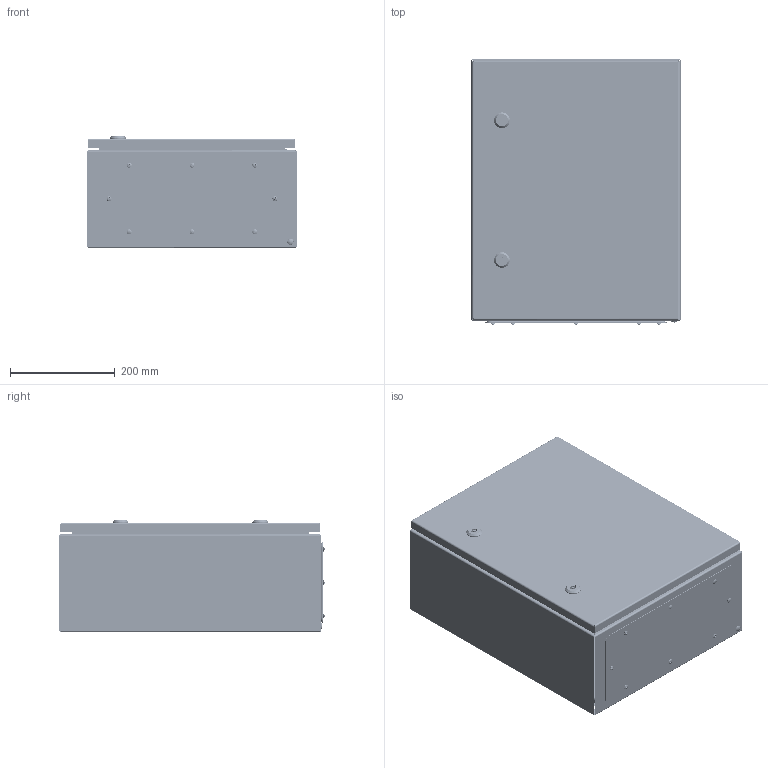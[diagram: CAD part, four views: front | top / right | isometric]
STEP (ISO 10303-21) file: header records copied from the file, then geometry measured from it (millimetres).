
FILE_DESCRIPTION (( 'STEP AP214' ), '1' );
FILE_NAME ('T-CCS 50.40.21.STEP', '2024-08-19T15:07:06', ( '' ), ( '' ), 'SwSTEP 2.0', 'SolidWorks 2019', '' );
FILE_SCHEMA (( 'AUTOMOTIVE_DESIGN' ));
Length unit declared in the file: millimetre
Products named in the file (1): T-CCS 50.40.21
Bounding box: 400 x 506.62 x 214.15 mm (x, y, z)
Volume: 2369674.4 mm3; surface area: 2422648.8 mm2
Topology: 79 solids, 79 shells, 3940 faces, 10056 edges, 6370 vertices
Faces by surface type: plane 1970, cylinder 1311, cone 328, bspline 168, torus 120, sphere 43
Entity records: 213810 total; most frequent: CARTESIAN_POINT 76842, ORIENTED_EDGE 20010, DIRECTION 18584, EDGE_CURVE 10005, AXIS2_PLACEMENT_3D 6397, VERTEX_POINT 6368, VECTOR 5790, LINE 5790
